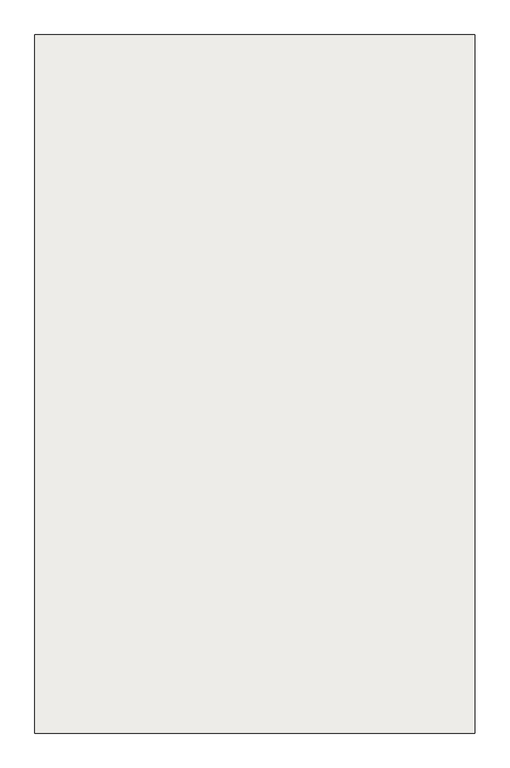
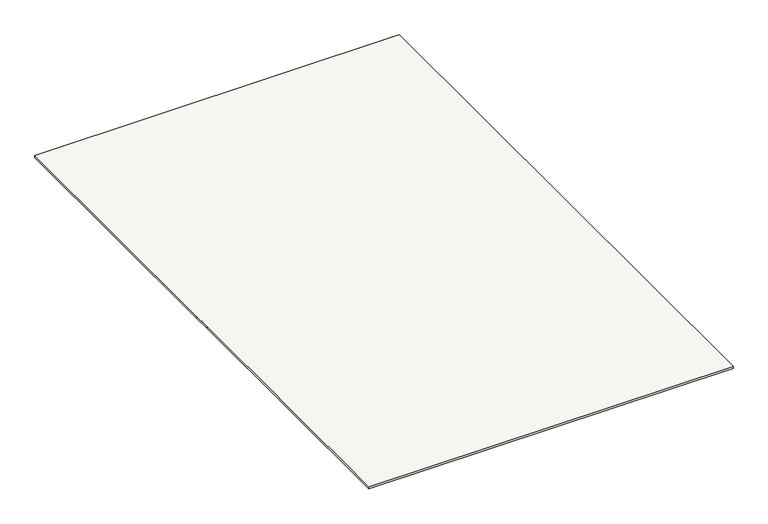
"""IFC4 building model written with IfcOpenShell, lengths in millimetres: slab geometry, Non-Monolitic_Landing."""

from ifc_helpers import new_model, si_unit, frame, origin, place, context, project, spatial, polyline, outline, extrude, source, transform, mapped, element, save


def slab_6c9523ca(model_context):
    return source(origin(), model_context, "Body", "SweptSolid", [
        extrude(outline(polyline([(2198.5041438, 13524.1395051), (3748.5041438, 13524.1395051), (3748.5041438, 11064.6238126), (2198.5041438, 11064.6238126), (2198.5041438, 12254.6238126), (2198.5041438, 12334.1395051), (2198.5041438, 13524.1395051)])), frame((0.0, 0.0, 13125.0), z_axis=(0.0, 0.0, 1.0), x_axis=(1.0, 0.0, 0.0)), (0.0, 0.0, 1.0), 10.0),
    ])


if __name__ == "__main__":
    model = new_model("IFC4")
    model_context = context("Model", 3, world=origin())
    ifc_project = project(units=[si_unit("LENGTHUNIT", "METRE", prefix="MILLI")], contexts=[model_context])
    site = spatial("IfcSite", under=ifc_project)
    building = spatial("IfcBuilding", under=site)
    placement = place(None, origin())
    slab_shape = slab_6c9523ca(model_context)
    element("IfcSlab", 1, ObjectType="Non-Monolitic_Landing", at=placement, inside=building, context=model_context, shape_type="MappedRepresentation", body=[
        mapped(slab_shape, transform((0.0, 0.0, 0.0), x_axis=(1.0, 0.0, 0.0), y_axis=(0.0, 1.0, 0.0), z_axis=(0.0, 0.0, 1.0))),
    ])
    save(model, "model.ifc")
